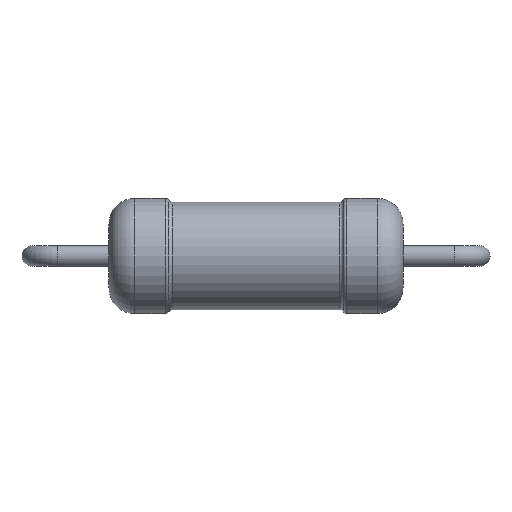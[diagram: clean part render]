
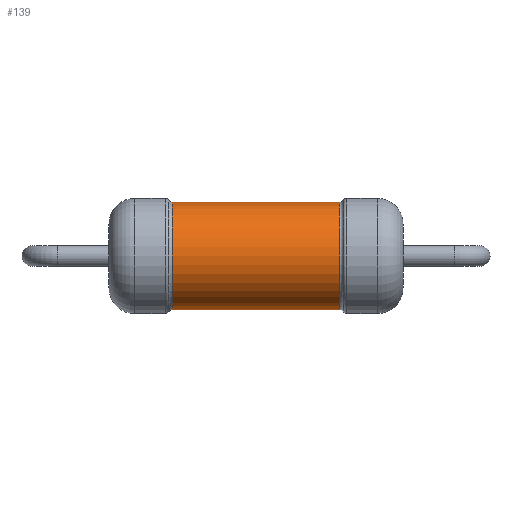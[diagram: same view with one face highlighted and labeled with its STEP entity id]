
A CAD part, front view. The second image highlights one B-rep face of the part: STEP entity #139.
In plain terms, the highlighted cylindrical face has radius 2.1 mm (diameter 4.2 mm), a full revolution.
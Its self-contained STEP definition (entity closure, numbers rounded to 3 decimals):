
#139=ADVANCED_FACE('',(#308,#310),#312,.T.);
#308=FACE_OUTER_BOUND('',#309,.T.);
#309=EDGE_LOOP('',(#413));
#310=FACE_OUTER_BOUND('',#311,.T.);
#311=EDGE_LOOP('',(#414));
#312=CYLINDRICAL_SURFACE('',#313,2.1);
#313=AXIS2_PLACEMENT_3D('',#314,#315,#316);
#314=CARTESIAN_POINT('',(3.284,0.,0.));
#315=DIRECTION('',(-1.,0.,0.));
#316=DIRECTION('',(0.,0.,1.));
#413=ORIENTED_EDGE('',*,*,#440,.T.);
#414=ORIENTED_EDGE('',*,*,#441,.F.);
#440=EDGE_CURVE('',#466,#466,#467,.T.);
#441=EDGE_CURVE('',#468,#468,#469,.T.);
#466=VERTEX_POINT('',#526);
#467=CIRCLE('',#527,2.1);
#468=VERTEX_POINT('',#531);
#469=CIRCLE('',#532,2.1);
#526=CARTESIAN_POINT('',(3.284,0.,2.1));
#527=AXIS2_PLACEMENT_3D('',#528,#529,#530);
#528=CARTESIAN_POINT('',(3.284,0.,0.));
#529=DIRECTION('',(-1.,0.,0.));
#530=DIRECTION('',(0.,0.,1.));
#531=CARTESIAN_POINT('',(-3.284,0.,2.1));
#532=AXIS2_PLACEMENT_3D('',#533,#534,#535);
#533=CARTESIAN_POINT('',(-3.284,0.,0.));
#534=DIRECTION('',(-1.,0.,0.));
#535=DIRECTION('',(0.,0.,1.));
